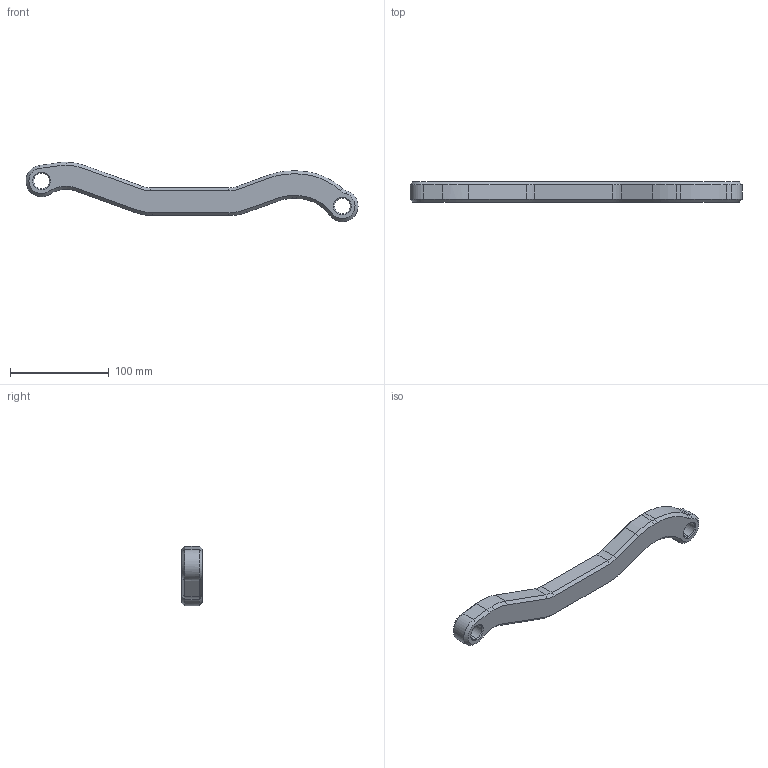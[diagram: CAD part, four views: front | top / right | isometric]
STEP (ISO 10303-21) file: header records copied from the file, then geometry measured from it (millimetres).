
FILE_DESCRIPTION (( 'STEP AP203' ), '1' );
FILE_NAME ('YYDK-500-0015 开门连杆（500T）.STEP', '2026-03-14T06:21:05', ( 'Windows 用户' ), ( '' ), 'SwSTEP 2.0', 'SolidWorks 2020', '' );
FILE_SCHEMA (( 'CONFIG_CONTROL_DESIGN' ));
Length unit declared in the file: millimetre
Products named in the file (1): YYDK-500-0015 开门连杆（500T）
Bounding box: 336.52 x 21 x 60.24 mm (x, y, z)
Volume: 188400 mm3; surface area: 33456.9 mm2
Topology: 1 solids, 1 shells, 85 faces, 199 edges, 116 vertices
Faces by surface type: cone 38, plane 29, cylinder 18
Entity records: 2476 total; most frequent: DIRECTION 449, CARTESIAN_POINT 401, ORIENTED_EDGE 398, EDGE_CURVE 199, AXIS2_PLACEMENT_3D 164, VECTOR 121, LINE 121, VERTEX_POINT 116
